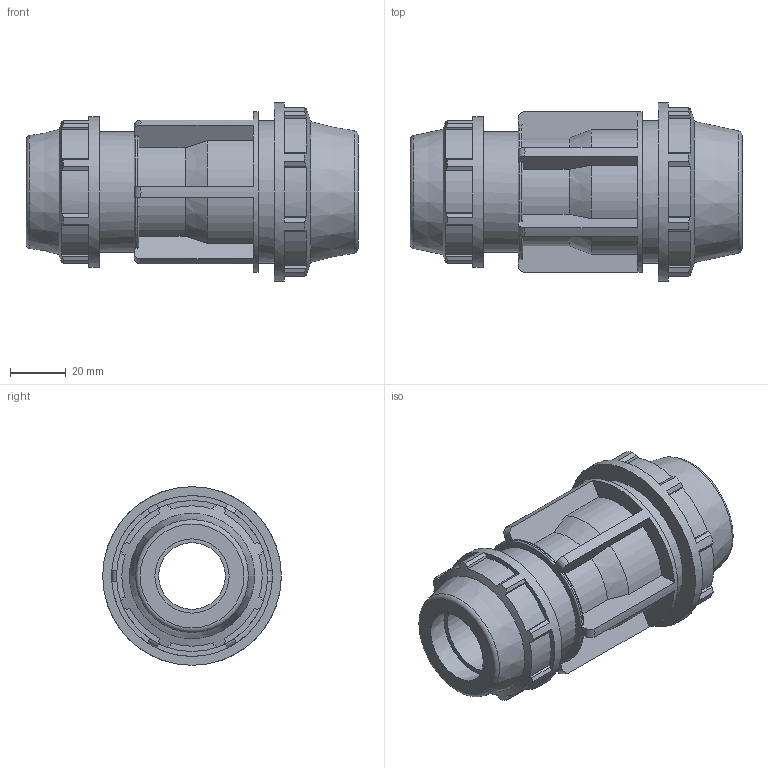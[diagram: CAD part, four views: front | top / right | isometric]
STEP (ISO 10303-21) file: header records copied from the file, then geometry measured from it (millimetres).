
FILE_DESCRIPTION(/* description */ ('PLASSON REDUCING COUPLER 1'''' - 3/4'''''),/* implementation_level */ '2;1');
FILE_NAME(/* name */ 'C:\Dropbox\KIMPROJECTS-Inventor 2019\99-16-3568-Processing Inch\ASTM Compression 2021\0711M0\0711M0010007.ipt.stp',/* time_stamp */ '2021-08-26T12:32:33+03:00',/* author */ ('KIM'),/* organization */ (''),/* preprocessor_version */ 'ST-DEVELOPER v17.2',/* originating_system */ 'Autodesk Inventor 2019',/* authorisation */ '');
FILE_SCHEMA (('AUTOMOTIVE_DESIGN { 1 0 10303 214 3 1 1 }'));
Length unit declared in the file: inch
Products named in the file (1): 0711M0010007
Bounding box: 119 x 64.01 x 64.01 mm (x, y, z)
Volume: 130537.7 mm3; surface area: 41051 mm2
Topology: 1 solids, 1 shells, 189 faces, 562 edges, 383 vertices
Faces by surface type: plane 114, cylinder 47, cone 14, torus 14
Full cylindrical faces by diameter (mm): 26.6 x1, 33.3 x1, 43.282 x1, 51.206 x1, 54.102 x1, 57.607 x1, 64.008 x1
Entity records: 6809 total; most frequent: CARTESIAN_POINT 1475, ORIENTED_EDGE 1124, DIRECTION 1047, EDGE_CURVE 562, VERTEX_POINT 383, AXIS2_PLACEMENT_3D 375, LINE 297, VECTOR 297
